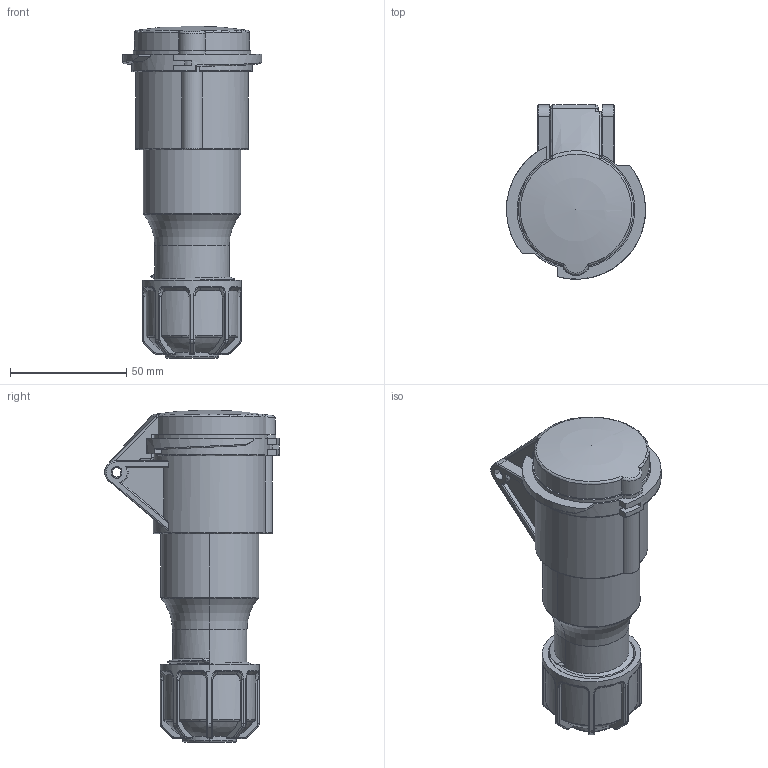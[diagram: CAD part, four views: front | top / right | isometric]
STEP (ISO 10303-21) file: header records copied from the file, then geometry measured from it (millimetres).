
FILE_DESCRIPTION(('FreeCAD Model'),'2;1');
FILE_NAME('Open CASCADE Shape Model','2026-02-04T09:30:27',(''),(''), 'Open CASCADE STEP processor 7.8','FreeCAD','Unknown');
FILE_SCHEMA(('AUTOMOTIVE_DESIGN { 1 0 10303 214 1 1 1 1 }'));
Length unit declared in the file: millimetre
Products named in the file (4): TL3T16432; Tomada; Tampa; Prensa cabo
Assembly tree (3 placements, depth 2):
  TL3T16432
    Tomada
    Tampa
    Prensa cabo
Bounding box: 59.79 x 75.01 x 142.65 mm (x, y, z)
Volume: 184752.7 mm3; surface area: 57802 mm2
Topology: 3 solids, 50 shells, 741 faces, 1739 edges, 1106 vertices
Faces by surface type: plane 254, bspline 212, cylinder 169, torus 55, sphere 30, cone 21
Full cylindrical faces by diameter (mm): 7.5 x1
Entity records: 41290 total; most frequent: CARTESIAN_POINT 25810, ORIENTED_EDGE 3476, DIRECTION 2705, EDGE_CURVE 1738, VERTEX_POINT 1106, AXIS2_PLACEMENT_3D 1043, FACE_BOUND 756, EDGE_LOOP 756
